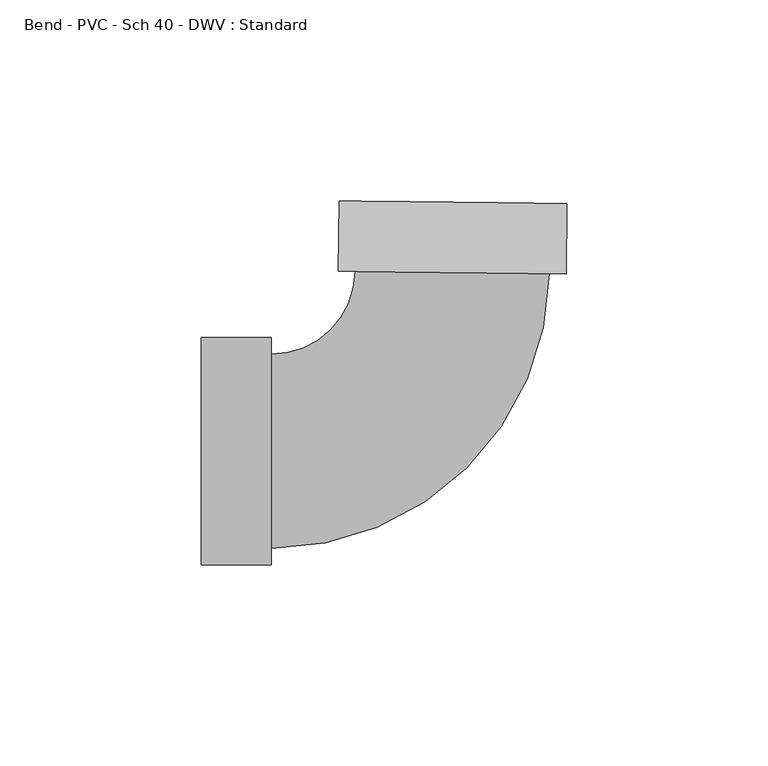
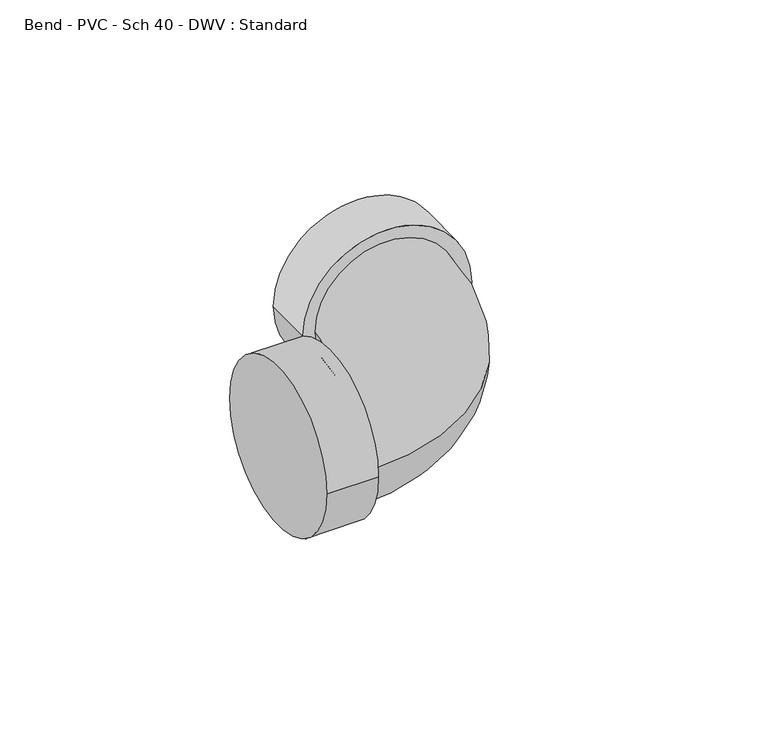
"""IFC4 building model written with IfcOpenShell, lengths in millimetres: pipe fitting geometry, Bend - PVC - Sch 40 - DWV : Standard."""

from ifc_helpers import new_model, si_unit, point, frame, origin, place, context, project, spatial, circle_curve, ellipse_curve, trimmed, source, transform, mapped, element, save
from ifc_brep_helpers import plane_surface, cylinder_surface, revolved_surface, advanced_brep


def bend_pvc_sch_40_dwv_standard_370f4fae(model_context):
    return source(origin(), model_context, "Body", "AdvancedBrep", [
        advanced_brep(
        [(-61.8998, -28.2829, 0.0), (-61.8998, 28.2829, 0.0), (-44.45, -28.2829, 0.0), (-44.45, 28.2829, 0.0), (-44.45, -24.13, 0.0), (-44.45, 24.13, 0.0), (-23.6120122, 44.7273102, 0.0), (24.6447314, 44.1666912, 0.0), (28.7973512, 44.1184485, 0.0), (-27.764632, 44.775553, 0.0), (29.0000593, 61.567071, 0.0), (-27.5619239, 62.2241755, 0.0)],
        [
            (0, 1, circle_curve(frame((-61.8998, 0.0, 0.0), z_axis=(-1.0, 0.0, 0.0), x_axis=(0.0, 1.0, 0.0)), 28.2829)),
            (1, 0, circle_curve(frame((-61.8998, 0.0, 0.0), z_axis=(-1.0, 0.0, 0.0), x_axis=(0.0, 1.0, 0.0)), 28.2829)),
            (2, 3, circle_curve(frame((-44.45, 0.0, 0.0), z_axis=(1.0, 0.0, 0.0), x_axis=(0.0, 1.0, 0.0)), 28.2829)),
            (3, 2, circle_curve(frame((-44.45, 0.0, 0.0), z_axis=(1.0, 0.0, 0.0), x_axis=(0.0, 1.0, 0.0)), 28.2829)),
            (4, 5, circle_curve(frame((-44.45, 0.0, 0.0), z_axis=(-1.0, 0.0, 0.0), x_axis=(0.0, 1.0, 0.0)), 24.13)),
            (5, 4, circle_curve(frame((-44.45, 0.0, 0.0), z_axis=(-1.0, 0.0, 0.0), x_axis=(0.0, 1.0, 0.0)), 24.13)),
            (0, 2),
            (3, 1),
            (6, 5, circle_curve(frame((-44.45, 44.969394, 0.0), z_axis=(0.0, 0.0, -1.0), x_axis=(0.0, -1.0, 0.0)), 20.839394)),
            (4, 7, circle_curve(frame((-44.45, 44.969394, 0.0), z_axis=(0.0, 0.0, 1.0), x_axis=(0.0, -1.0, 0.0)), 69.099394)),
            (7, 6, circle_curve(frame((0.5163596, 44.4470007, 0.0), z_axis=(-0.011616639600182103, -0.9999325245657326, 0.0), x_axis=(-0.9999325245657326, 0.011616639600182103, 0.0)), 24.13)),
            (6, 7, circle_curve(frame((0.5163596, 44.4470007, 0.0), z_axis=(-0.011616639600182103, -0.9999325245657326, 0.0), x_axis=(-0.9999325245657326, 0.011616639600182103, 0.0)), 24.13)),
            (8, 9, circle_curve(frame((0.5163596, 44.4470007, 0.0), z_axis=(-0.011616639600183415, -0.9999325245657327, 0.0), x_axis=(-0.9999325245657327, 0.011616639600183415, 0.0)), 28.2829)),
            (9, 8, circle_curve(frame((0.5163596, 44.4470007, 0.0), z_axis=(-0.011616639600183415, -0.9999325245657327, 0.0), x_axis=(-0.9999325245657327, 0.011616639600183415, 0.0)), 28.2829)),
            (10, 11, circle_curve(frame((0.7190677, 61.8956233, 0.0), z_axis=(0.011616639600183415, 0.9999325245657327, 0.0), x_axis=(-0.9999325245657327, 0.011616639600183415, 0.0)), 28.2829)),
            (11, 10, circle_curve(frame((0.7190677, 61.8956233, 0.0), z_axis=(0.011616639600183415, 0.9999325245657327, 0.0), x_axis=(-0.9999325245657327, 0.011616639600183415, 0.0)), 28.2829)),
            (8, 10),
            (11, 9),
        ],
        [
            plane_surface(frame((-61.8998, 0.0, 0.0), z_axis=(-1.0, 0.0, 0.0), x_axis=(0.0, 0.0, 1.0))),
            plane_surface(frame((-44.45, 0.0, 0.0), z_axis=(1.0, 0.0, 0.0), x_axis=(0.0, 0.0, 1.0))),
            cylinder_surface(frame((-61.8998, 0.0, 0.0), z_axis=(-1.0, 0.0, 0.0), x_axis=(0.0, 1.0, 0.0)), 28.2829),
            revolved_surface(trimmed(ellipse_curve(frame((-44.45, 0.0, 0.0), z_axis=(-1.0, 0.0, 0.0), x_axis=(0.0, 1.0, 0.0)), 24.13, 24.13), [point((-44.45, -24.13, 0.0))], [point((-44.45, 24.13, 0.0))], True, "CARTESIAN"), (-44.45, 44.969394, 0.0), (0.0, 0.0, 1.0)),
            revolved_surface(trimmed(ellipse_curve(frame((-44.45, 0.0, 0.0), z_axis=(-1.0, 0.0, 0.0), x_axis=(0.0, 1.0, 0.0)), 24.13, 24.13), [point((-44.45, 24.13, 0.0))], [point((-44.45, -24.13, 0.0))], True, "CARTESIAN"), (-44.45, 44.969394, 0.0), (0.0, 0.0, 1.0)),
            plane_surface(frame((0.5163596, 44.4470007, 0.0), z_axis=(-0.011616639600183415, -0.9999325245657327, 0.0), x_axis=(0.0, 0.0, 1.0))),
            plane_surface(frame((0.7190677, 61.8956233, 0.0), z_axis=(0.011616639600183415, 0.9999325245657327, 0.0), x_axis=(0.0, 0.0, 1.0))),
            cylinder_surface(frame((0.5163596, 44.4470007, 0.0), z_axis=(-0.011616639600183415, -0.9999325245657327, 0.0), x_axis=(-0.9999325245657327, 0.011616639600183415, 0.0)), 28.2829),
        ],
        [
            (0, [[1, 2]]),
            (1, [[3, 4], [5, 6]]),
            (2, [[-1, 7, -4, 8]]),
            (2, [[-2, -8, -3, -7]]),
            (3, [[9, -5, 10, 11]]),
            (4, [[-9, 12, -10, -6]]),
            (5, [[13, 14], [-11, -12]]),
            (6, [[15, 16]]),
            (7, [[-13, 17, -16, 18]]),
            (7, [[-14, -18, -15, -17]]),
        ],
    ),
    ])


if __name__ == "__main__":
    model = new_model("IFC4")
    model_context = context("Model", 3, world=origin())
    ifc_project = project(units=[si_unit("LENGTHUNIT", "METRE", prefix="MILLI")], contexts=[model_context])
    site = spatial("IfcSite", under=ifc_project)
    building = spatial("IfcBuilding", under=site)
    placement = place(None, origin())
    bend_pvc_sch_40_dwv_standard_shape = bend_pvc_sch_40_dwv_standard_370f4fae(model_context)
    element("IfcPipeFitting", 1, ObjectType="Bend - PVC - Sch 40 - DWV : Standard", at=placement, inside=building, context=model_context, shape_type="MappedRepresentation", body=[
        mapped(bend_pvc_sch_40_dwv_standard_shape, transform((0.0, 0.0, 0.0), x_axis=(1.0, 0.0, 0.0), y_axis=(0.0, 1.0, 0.0), z_axis=(0.0, 0.0, 1.0))),
    ])
    save(model, "model.ifc")
